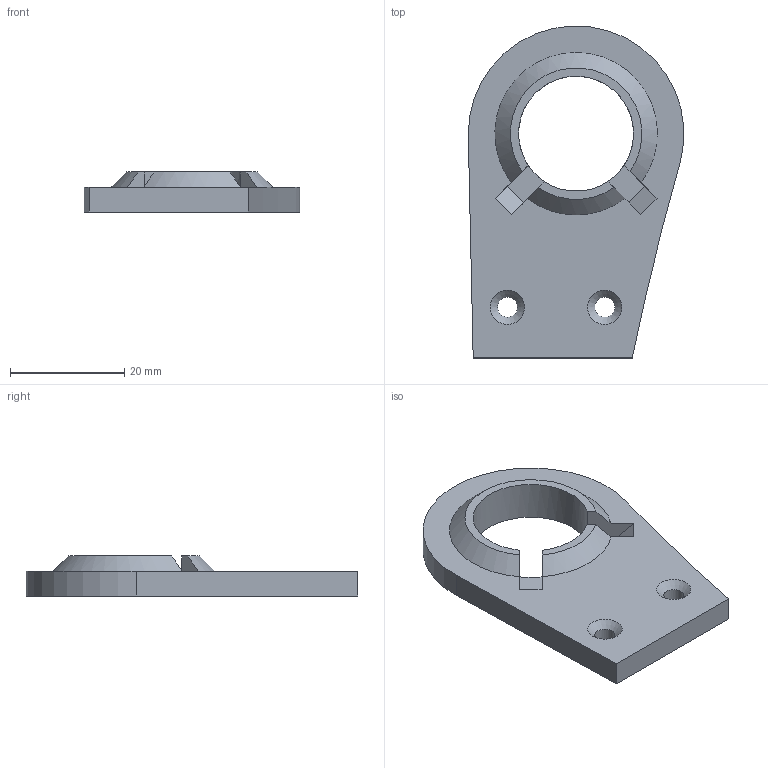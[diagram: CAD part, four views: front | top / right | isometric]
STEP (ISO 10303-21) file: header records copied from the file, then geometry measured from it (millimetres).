
FILE_DESCRIPTION(/* description */ (''),/* implementation_level */ '2;1');
FILE_NAME(/* name */ 'D:\3D печать\Мои проекты\Archy MK 2\STEP\плечо V2 крепление.stp',/* time_stamp */ '2019-03-20T22:05:23+06:00',/* author */ ('Пользователь'),/* organization */ (''),/* preprocessor_version */ 'ST-DEVELOPER v16.5',/* originating_system */ 'Autodesk Inventor 2017',/* authorisation */ '');
FILE_SCHEMA (('AUTOMOTIVE_DESIGN { 1 0 10303 214 3 1 1 }'));
Length unit declared in the file: millimetre
Products named in the file (1): плечо V2 \X2\043A04400435043F043B
0435043D04380435\X0\
Bounding box: 37.65 x 58.02 x 7 mm (x, y, z)
Volume: 6794.5 mm3; surface area: 4412.1 mm2
Topology: 1 solids, 1 shells, 23 faces, 65 edges, 44 vertices
Faces by surface type: plane 14, cylinder 5, cone 4
Full cylindrical faces by diameter (mm): 3.5 x2, 20.1 x1
Entity records: 748 total; most frequent: CARTESIAN_POINT 142, ORIENTED_EDGE 118, DIRECTION 118, EDGE_CURVE 59, VERTEX_POINT 43, AXIS2_PLACEMENT_3D 43, EDGE_LOOP 34, LINE 32
